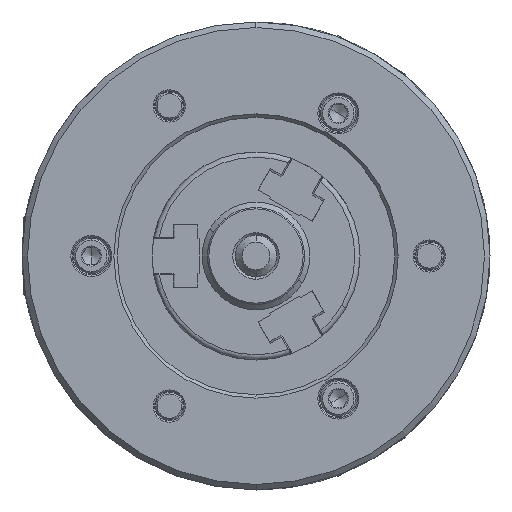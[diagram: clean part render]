
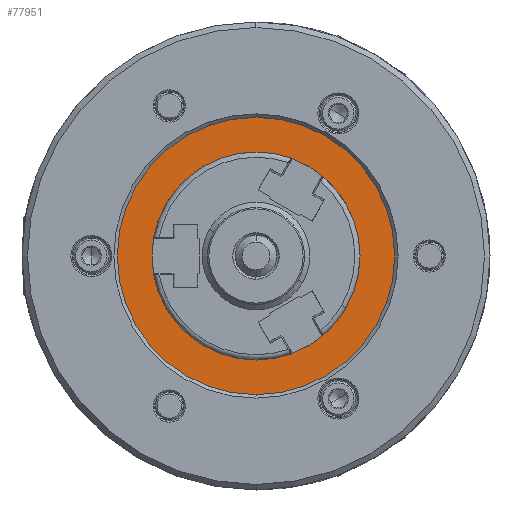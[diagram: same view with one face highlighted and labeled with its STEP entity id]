
A CAD part, left-side view. The second image highlights one B-rep face of the part: STEP entity #77951.
In plain terms, the highlighted planar face has unit normal (-1, 0, 0).
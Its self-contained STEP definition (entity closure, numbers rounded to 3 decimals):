
#1461 = CARTESIAN_POINT ( 'NONE',  ( -48., 0., -30. ) ) ;
#2214 = EDGE_CURVE ( 'NONE', #6980, #87409, #36299, .T. ) ;
#3289 = EDGE_CURVE ( 'NONE', #6754, #14602, #27852, .T. ) ;
#4634 = DIRECTION ( 'NONE',  ( 1., 0., 0. ) ) ;
#5615 = DIRECTION ( 'NONE',  ( 1., 0., 0. ) ) ;
#6209 = EDGE_CURVE ( 'NONE', #14602, #6754, #81013, .T. ) ;
#6754 = VERTEX_POINT ( 'NONE', #56198 ) ;
#6980 = VERTEX_POINT ( 'NONE', #18210 ) ;
#9579 = CARTESIAN_POINT ( 'NONE',  ( -48., 0., 40. ) ) ;
#11767 = ORIENTED_EDGE ( 'NONE', *, *, #68611, .T. ) ;
#12469 = DIRECTION ( 'NONE',  ( 0., 0., -1. ) ) ;
#12881 = ORIENTED_EDGE ( 'NONE', *, *, #3289, .F. ) ;
#13717 = EDGE_LOOP ( 'NONE', ( #12881, #69179 ) ) ;
#14602 = VERTEX_POINT ( 'NONE', #9579 ) ;
#18210 = CARTESIAN_POINT ( 'NONE',  ( -48., 0., 30. ) ) ;
#25250 = EDGE_LOOP ( 'NONE', ( #11767, #53296 ) ) ;
#25264 = DIRECTION ( 'NONE',  ( 0., 0., -1. ) ) ;
#27852 = CIRCLE ( 'NONE', #76253, 40. ) ;
#30229 = CARTESIAN_POINT ( 'NONE',  ( -48., 0., 0. ) ) ;
#31835 = DIRECTION ( 'NONE',  ( 0., 0., -1. ) ) ;
#32149 = DIRECTION ( 'NONE',  ( 0., 0., -1. ) ) ;
#32589 = AXIS2_PLACEMENT_3D ( 'NONE', #73846, #5615, #25264 ) ;
#33040 = DIRECTION ( 'NONE',  ( 1., 0., 0. ) ) ;
#36299 = CIRCLE ( 'NONE', #53364, 30. ) ;
#38817 = DIRECTION ( 'NONE',  ( 1., 0., 0. ) ) ;
#39670 = FACE_OUTER_BOUND ( 'NONE', #13717, .T. ) ;
#53296 = ORIENTED_EDGE ( 'NONE', *, *, #2214, .T. ) ;
#53364 = AXIS2_PLACEMENT_3D ( 'NONE', #30229, #63666, #56133 ) ;
#53985 = CARTESIAN_POINT ( 'NONE',  ( -48., 0., 0. ) ) ;
#56133 = DIRECTION ( 'NONE',  ( 0., 0., -1. ) ) ;
#56198 = CARTESIAN_POINT ( 'NONE',  ( -48., 0., -40. ) ) ;
#60187 = PLANE ( 'NONE',  #82170 ) ;
#61667 = AXIS2_PLACEMENT_3D ( 'NONE', #65690, #4634, #31835 ) ;
#63666 = DIRECTION ( 'NONE',  ( 1., 0., 0. ) ) ;
#65690 = CARTESIAN_POINT ( 'NONE',  ( -48., 0., 0. ) ) ;
#68611 = EDGE_CURVE ( 'NONE', #87409, #6980, #77348, .T. ) ;
#69179 = ORIENTED_EDGE ( 'NONE', *, *, #6209, .F. ) ;
#73846 = CARTESIAN_POINT ( 'NONE',  ( -48., 0., 0. ) ) ;
#76253 = AXIS2_PLACEMENT_3D ( 'NONE', #53985, #33040, #32149 ) ;
#77348 = CIRCLE ( 'NONE', #61667, 30. ) ;
#77951 = ADVANCED_FACE ( 'NONE', ( #39670, #79787 ), #60187, .F. ) ;
#78933 = CARTESIAN_POINT ( 'NONE',  ( -48., -40., 0. ) ) ;
#79787 = FACE_BOUND ( 'NONE', #25250, .T. ) ;
#81013 = CIRCLE ( 'NONE', #32589, 40. ) ;
#82170 = AXIS2_PLACEMENT_3D ( 'NONE', #78933, #38817, #12469 ) ;
#87409 = VERTEX_POINT ( 'NONE', #1461 ) ;
